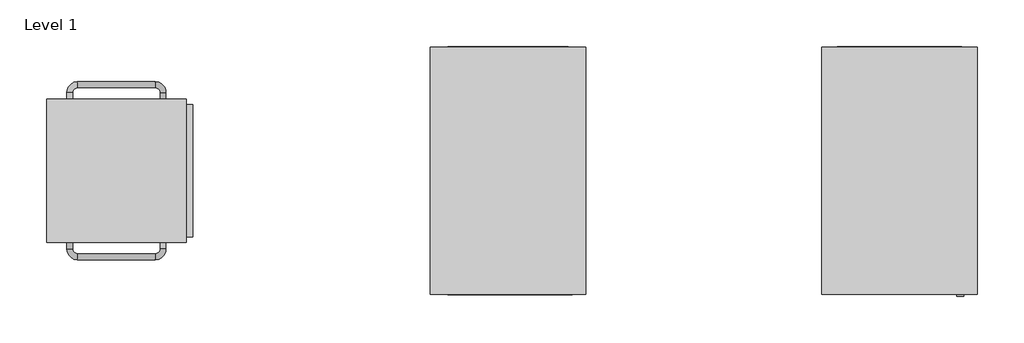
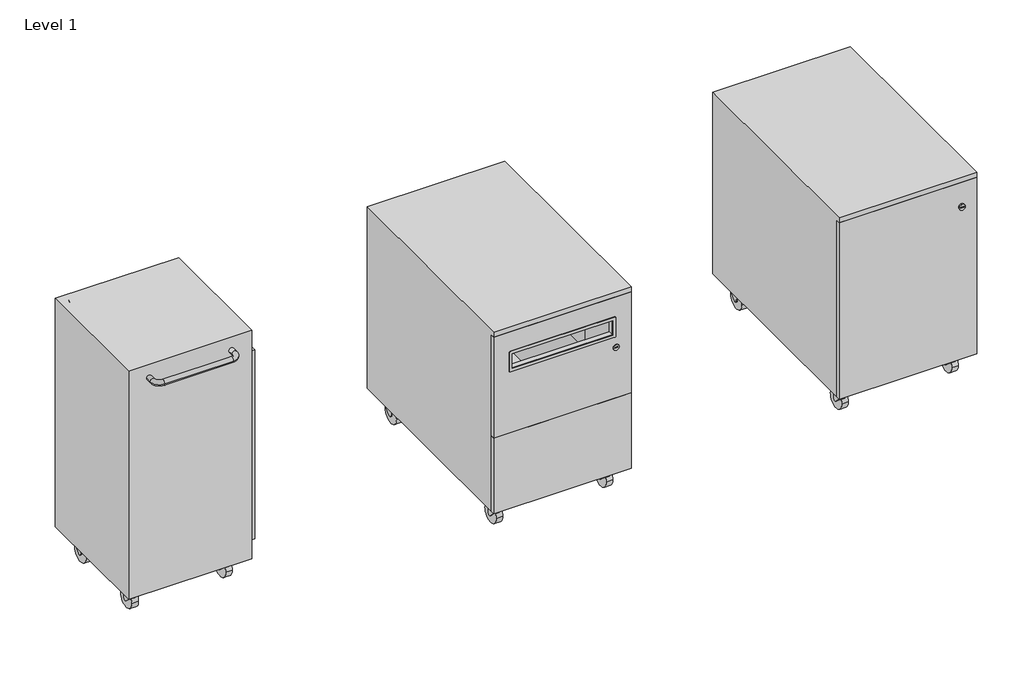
# One storey: 3 furniture elements.
"""IFC4 building model written with IfcOpenShell, lengths in millimetres."""

from ifc_helpers import new_model, si_unit, origin, place, context, project, spatial, transform, mapped, element, save
from components import bk_library_book_return_box_bk_library_book_return_box_61cadbcc, bk_library_book_return_cabinet_bk_library_book_return_a110d377, bk_library_book_return_window_bk_library_book_return_window_ee8f2ecb

model = new_model("IFC4")

# Units and contexts
model_context = context("Model", 3, world=origin())
ifc_project = project(units=[si_unit("LENGTHUNIT", "METRE", prefix="MILLI")], contexts=[model_context])

# Site, building, storey
site = spatial("IfcSite", under=ifc_project)
building = spatial("IfcBuilding", under=site)
storey = spatial("IfcBuildingStorey", under=building, Name="Level 1", Elevation=0.0)

# Furniture
placement = place(None, origin())
bk_library_book_return_box_bk_library_book_return_box_shape = bk_library_book_return_box_bk_library_book_return_box_61cadbcc(model_context)
element("IfcFurniture", 1, ObjectType="BK Library - Book Return - Box : BK Library - Book Return - Box", at=placement, inside=storey, context=model_context, shape_type="MappedRepresentation", body=[
    mapped(bk_library_book_return_box_bk_library_book_return_box_shape, transform((-669.7402318, 2197.9079464, -348.6569781), x_axis=(0.0, 1.0, 0.0), y_axis=(-1.0, 0.0, 0.0), z_axis=(0.0, 0.0, 1.0))),
])
bk_library_book_return_cabinet_bk_library_book_return_shape = bk_library_book_return_cabinet_bk_library_book_return_a110d377(model_context)
element("IfcFurniture", 2, ObjectType="BK Library - Book Return - Cabinet : BK Library - Book Return - Cabinet", at=placement, inside=storey, context=model_context, shape_type="MappedRepresentation", body=[
    mapped(bk_library_book_return_cabinet_bk_library_book_return_shape, transform((-3189.7402318, 2197.9079464, -348.6569781), x_axis=(0.0, 1.0, 0.0), y_axis=(-1.0, 0.0, 0.0), z_axis=(0.0, 0.0, 1.0))),
])
bk_library_book_return_window_bk_library_book_return_window_shape = bk_library_book_return_window_bk_library_book_return_window_ee8f2ecb(model_context)
element("IfcFurniture", 3, ObjectType="BK Library - Book Return - Window : BK Library - Book Return - Window", at=placement, inside=storey, context=model_context, shape_type="MappedRepresentation", body=[
    mapped(bk_library_book_return_window_bk_library_book_return_window_shape, transform((-1929.7402318, 2197.9079464, -348.6569781), x_axis=(0.0, 1.0, 0.0), y_axis=(-1.0, 0.0, 0.0), z_axis=(0.0, 0.0, 1.0))),
])

save(model, "model.ifc")
